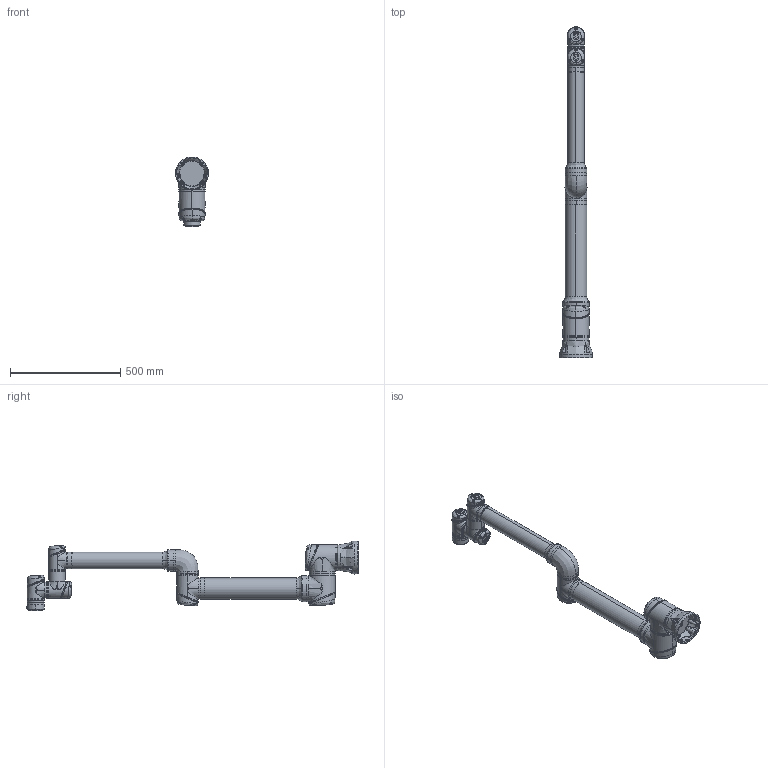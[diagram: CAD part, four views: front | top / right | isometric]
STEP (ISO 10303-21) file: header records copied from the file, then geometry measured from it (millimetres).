
FILE_DESCRIPTION (( 'STEP AP214' ), '1' );
FILE_NAME ('ES_±¾ÌåES64-13.STEP', '2026-06-05T05:02:03', ( '' ), ( '' ), 'SwSTEP 2.0', 'SolidWorks 2020', '' );
FILE_SCHEMA (( 'AUTOMOTIVE_DESIGN' ));
Length unit declared in the file: millimetre
Products named in the file (8): CS64-13-Link32; CS64-13-J12; CS64-13-Base2; CS64-13-Link22; ES64-13-Flange(1)2; ES_掛极ES64-13; CS64-13-J52; CS64-13-J62
Assembly tree (7 placements, depth 2):
  ES_掛极ES64-13
    CS64-13-Base2
    ES64-13-Flange(1)2
    CS64-13-J12
    CS64-13-Link22
    CS64-13-J52
    CS64-13-J62
    CS64-13-Link32
Bounding box: 149.69 x 1506.7 x 317.49 mm (x, y, z)
Volume: 14179141.8 mm3; surface area: 1010947 mm2
Topology: 71 solids, 76 shells, 4760 faces, 11488 edges, 6909 vertices
Faces by surface type: bspline 2326, plane 1089, cylinder 732, cone 324, sphere 162, torus 127
Entity records: 678535 total; most frequent: CARTESIAN_POINT 581625, ORIENTED_EDGE 22548, DIRECTION 13974, EDGE_CURVE 11274, VERTEX_POINT 6882, AXIS2_PLACEMENT_3D 5889, B_SPLINE_CURVE_WITH_KNOTS 5134, EDGE_LOOP 5052
